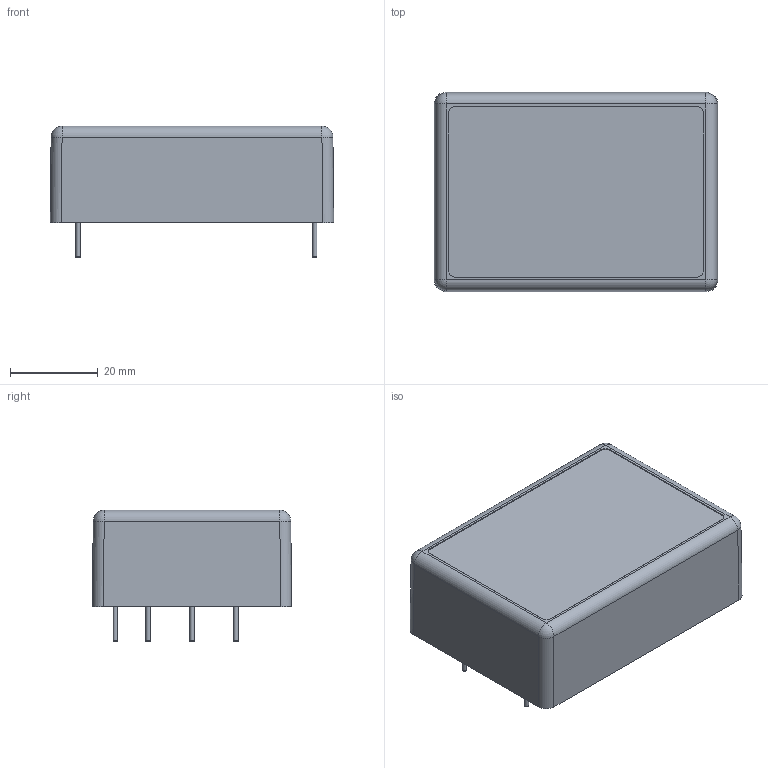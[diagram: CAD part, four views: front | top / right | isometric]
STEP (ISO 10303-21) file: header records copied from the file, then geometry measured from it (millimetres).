
FILE_DESCRIPTION(/* description */ (''),/* implementation_level */ '2;1');
FILE_NAME(/* name */ 'D:\Inventor\ATC30\ATC30.stp',/* time_stamp */ '2017-11-20T16:03:06+08:00',/* author */ ('peter'),/* organization */ (''),/* preprocessor_version */ 'ST-DEVELOPER v15.2',/* originating_system */ 'Autodesk Inventor 2014',/* authorisation */ '');
FILE_SCHEMA (('CONFIG_CONTROL_DESIGN'));
Length unit declared in the file: millimetre
Products named in the file (4): TOP CASE; BOT CASE; PIN - 1 x 25 mm; ATC30
Bounding box: 64.6 x 45.4 x 30 mm (x, y, z)
Volume: 13234.3 mm3; surface area: 20864.2 mm2
Topology: 6 solids, 6 shells, 161 faces, 372 edges, 230 vertices
Faces by surface type: plane 97, cylinder 38, torus 16, cone 6, sphere 4
Full cylindrical faces by diameter (mm): 1 x8, 1.1 x6, 1.6 x4
Entity records: 3777 total; most frequent: DIRECTION 642, CARTESIAN_POINT 636, ORIENTED_EDGE 596, EDGE_CURVE 298, LINE 230, VECTOR 230, AXIS2_PLACEMENT_3D 206, VERTEX_POINT 200
